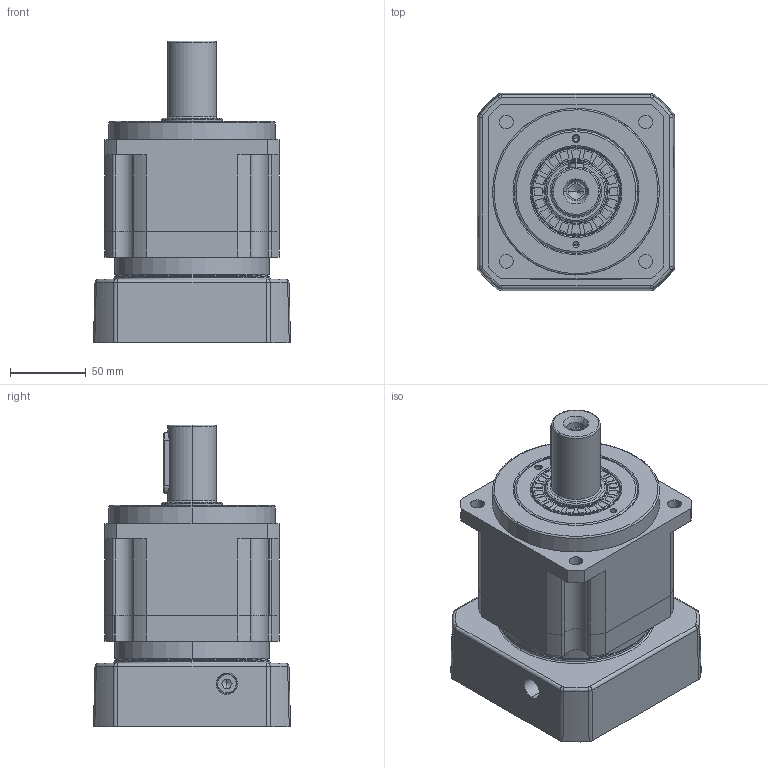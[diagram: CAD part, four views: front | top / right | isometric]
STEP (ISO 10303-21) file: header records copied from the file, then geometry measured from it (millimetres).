
FILE_DESCRIPTION (( 'STEP AP214' ), '1' );
FILE_NAME ('FAB115D-L1-22-110-145-M8.STEP', '2021-04-24T10:29:31', ( '微软用户' ), ( '微软中国' ), 'SwSTEP 2.0', 'SolidWorks 2014', '' );
FILE_SCHEMA (( 'AUTOMOTIVE_DESIGN' ));
Length unit declared in the file: millimetre
Products named in the file (38): 输入锁紧环26X63.5X16; 蚐猾40x58X5; 输入太阳齿轮PAB115D-22; M6-14樓粟菜; 镂空输入法兰-110X44.5XM8; 输入端壳体PAB115D; 输出内齿圈壳体PAB115D; FAB115D-L1-22-110-145-M8; M8-16; M6-14; 粟菜M6; す瑩10X40; 隅弇覃淕杶PAB115D; 怀堤俴陎殤PAB115D
Assembly tree (24 placements, depth 2):
  输入锁紧环26X63.5X16
  蚐猾40x58X5
  输入太阳齿轮PAB115D-22
  M6-14樓粟菜
  镂空输入法兰-110X44.5XM8
Bounding box: 130 x 130 x 199 mm (x, y, z)
Volume: 1474689.1 mm3; surface area: 245332 mm2
Topology: 18 solids, 30 shells, 1291 faces, 3071 edges, 1838 vertices
Faces by surface type: bspline 381, plane 341, cylinder 318, cone 188, torus 32, sphere 31
Entity records: 47493 total; most frequent: CARTESIAN_POINT 24216, ORIENTED_EDGE 4947, DIRECTION 4311, EDGE_CURVE 2477, AXIS2_PLACEMENT_3D 1782, VERTEX_POINT 1496, EDGE_LOOP 1192, FACE_OUTER_BOUND 1078
